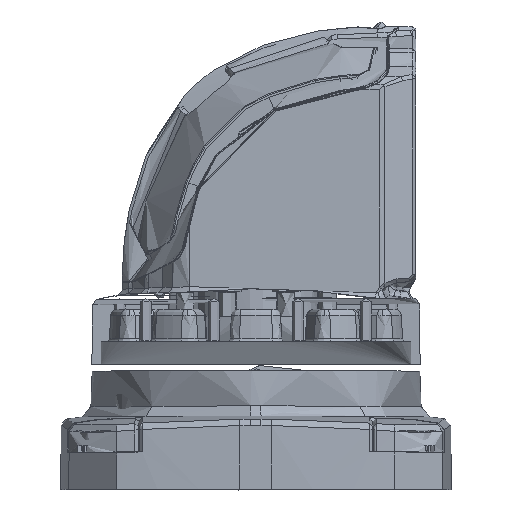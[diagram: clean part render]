
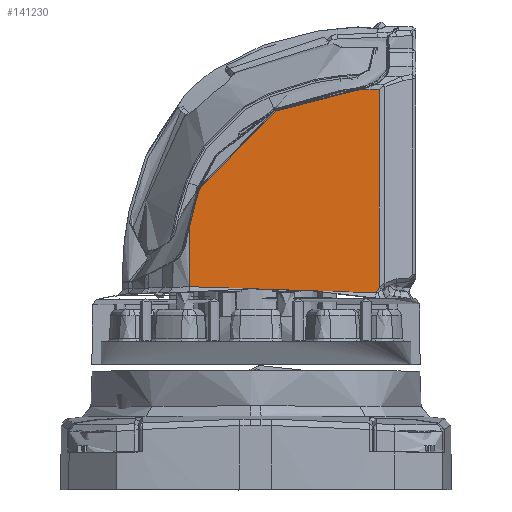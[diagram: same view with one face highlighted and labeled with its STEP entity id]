
A CAD part, top view. The second image highlights one B-rep face of the part: STEP entity #141230.
In plain terms, the highlighted planar face has unit normal (0, 0.009, 1) as drawn and (-0.009, 0, -1) by its records, which use the part's own axes.
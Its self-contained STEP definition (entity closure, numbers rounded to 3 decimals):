
#2459 = CARTESIAN_POINT ( 'NONE',  ( 123.346, -120.679, -51.222 ) ) ;
#3054 = ORIENTED_EDGE ( 'NONE', *, *, #195220, .F. ) ;
#4301 = CARTESIAN_POINT ( 'NONE',  ( 158.067, -94.267, -51.525 ) ) ;
#4817 = CARTESIAN_POINT ( 'NONE',  ( 177.502, -152.772, -51.694 ) ) ;
#7293 = CARTESIAN_POINT ( 'NONE',  ( 116.681, -147.272, -51.164 ) ) ;
#11046 = CARTESIAN_POINT ( 'NONE',  ( 179.234, -151.762, -51.71 ) ) ;
#18062 = ORIENTED_EDGE ( 'NONE', *, *, #227796, .F. ) ;
#18895 = EDGE_CURVE ( 'NONE', #193272, #121677, #91196, .T. ) ;
#20857 = CARTESIAN_POINT ( 'NONE',  ( 148.407, -97.092, -51.44 ) ) ;
#21921 = CARTESIAN_POINT ( 'NONE',  ( 148.407, -97.092, -51.44 ) ) ;
#26287 = CARTESIAN_POINT ( 'NONE',  ( 177.502, -152.772, -51.694 ) ) ;
#28095 = VERTEX_POINT ( 'NONE', #237103 ) ;
#29207 = CARTESIAN_POINT ( 'NONE',  ( 116.884, -146.453, -51.165 ) ) ;
#29420 = CARTESIAN_POINT ( 'NONE',  ( 181.935, -120.373, -51.733 ) ) ;
#31206 = CARTESIAN_POINT ( 'NONE',  ( 136.651, -102.935, -51.338 ) ) ;
#37729 = ORIENTED_EDGE ( 'NONE', *, *, #253411, .F. ) ;
#43640 = CARTESIAN_POINT ( 'NONE',  ( 146.758, -97.726, -51.426 ) ) ;
#44693 = FACE_OUTER_BOUND ( 'NONE', #84676, .T. ) ;
#45426 = CARTESIAN_POINT ( 'NONE',  ( 147.305, -97.508, -51.431 ) ) ;
#45824 = CARTESIAN_POINT ( 'NONE',  ( 116.681, -147.272, -51.164 ) ) ;
#46358 = DIRECTION ( 'NONE',  ( 1., 0., -0.009 ) ) ;
#46810 = VERTEX_POINT ( 'NONE', #64617 ) ;
#50337 = DIRECTION ( 'NONE',  ( -0.009, 0., -1. ) ) ;
#51554 = EDGE_CURVE ( 'NONE', #130534, #155772, #236818, .T. ) ;
#52158 = CARTESIAN_POINT ( 'NONE',  ( 128.631, -110.859, -51.268 ) ) ;
#56429 = EDGE_CURVE ( 'NONE', #165118, #28095, #68946, .T. ) ;
#61129 = B_SPLINE_CURVE_WITH_KNOTS ( 'NONE', 3,
 ( #224419, #266358, #253562, #128610, #251765, #21921 ),
 .UNSPECIFIED., .F., .F.,
 ( 4, 2, 4 ),
 ( 0., 0.5, 1. ),
 .UNSPECIFIED. ) ;
#62897 = CARTESIAN_POINT ( 'NONE',  ( 177.315, -94.267, -51.693 ) ) ;
#63331 = LINE ( 'NONE', #62897, #69843 ) ;
#64617 = CARTESIAN_POINT ( 'NONE',  ( 148.407, -97.092, -51.44 ) ) ;
#68426 = CARTESIAN_POINT ( 'NONE',  ( 117.123, -144.779, -51.168 ) ) ;
#68946 = LINE ( 'NONE', #45824, #117909 ) ;
#69843 = VECTOR ( 'NONE', #190638, 1000. ) ;
#73159 = B_SPLINE_CURVE_WITH_KNOTS ( 'NONE', 3,
 ( #68426, #191701, #29207, #7293 ),
 .UNSPECIFIED., .F., .F.,
 ( 4, 4 ),
 ( 0., 1. ),
 .UNSPECIFIED. ) ;
#74565 = ORIENTED_EDGE ( 'NONE', *, *, #175607, .F. ) ;
#84676 = EDGE_LOOP ( 'NONE', ( #219170, #193427, #3054, #185030, #37729, #198572, #233194, #74565, #18062, #220912 ) ) ;
#90588 = CARTESIAN_POINT ( 'NONE',  ( 179.234, -151.762, -51.71 ) ) ;
#90936 = CARTESIAN_POINT ( 'NONE',  ( 175.577, -113.439, -51.678 ) ) ;
#91196 = B_SPLINE_CURVE_WITH_KNOTS ( 'NONE', 3,
 ( #238262, #135205, #31206, #52158, #218193, #239120 ),
 .UNSPECIFIED., .F., .F.,
 ( 4, 2, 4 ),
 ( 0., 0.505, 1. ),
 .UNSPECIFIED. ) ;
#94962 = B_SPLINE_CURVE_WITH_KNOTS ( 'NONE', 3,
 ( #20857, #104779, #45426, #43640 ),
 .UNSPECIFIED., .F., .F.,
 ( 4, 4 ),
 ( 0., 1. ),
 .UNSPECIFIED. ) ;
#104779 = CARTESIAN_POINT ( 'NONE',  ( 147.855, -97.297, -51.436 ) ) ;
#105241 = EDGE_CURVE ( 'NONE', #121677, #237592, #252478, .T. ) ;
#114832 = CARTESIAN_POINT ( 'NONE',  ( 177.315, -94.267, -51.693 ) ) ;
#117909 = VECTOR ( 'NONE', #191847, 1000. ) ;
#119052 = CARTESIAN_POINT ( 'NONE',  ( 123.346, -120.679, -51.222 ) ) ;
#121677 = VERTEX_POINT ( 'NONE', #2459 ) ;
#128610 = CARTESIAN_POINT ( 'NONE',  ( 151.571, -95.983, -51.468 ) ) ;
#129391 = CARTESIAN_POINT ( 'NONE',  ( 116.681, -152.772, -51.164 ) ) ;
#130534 = VERTEX_POINT ( 'NONE', #114832 ) ;
#133472 = VERTEX_POINT ( 'NONE', #4301 ) ;
#135205 = CARTESIAN_POINT ( 'NONE',  ( 141.468, -99.803, -51.38 ) ) ;
#136199 = B_SPLINE_CURVE_WITH_KNOTS ( 'NONE', 3,
 ( #90588, #256577, #237411, #4817 ),
 .UNSPECIFIED., .F., .F.,
 ( 4, 4 ),
 ( 0., 1. ),
 .UNSPECIFIED. ) ;
#137381 = CARTESIAN_POINT ( 'NONE',  ( 117.123, -144.779, -51.168 ) ) ;
#140104 = CARTESIAN_POINT ( 'NONE',  ( 118.05, -136.493, -51.176 ) ) ;
#141230 = ADVANCED_FACE ( 'NONE', ( #44693 ), #151696, .T. ) ;
#148059 = LINE ( 'NONE', #129391, #151235 ) ;
#151235 = VECTOR ( 'NONE', #46358, 1000. ) ;
#151696 = PLANE ( 'NONE',  #215749 ) ;
#153505 = DIRECTION ( 'NONE',  ( 0., -1., 0. ) ) ;
#155772 = VERTEX_POINT ( 'NONE', #11046 ) ;
#158144 = CARTESIAN_POINT ( 'NONE',  ( 146.758, -97.726, -51.426 ) ) ;
#165118 = VERTEX_POINT ( 'NONE', #240937 ) ;
#175607 = EDGE_CURVE ( 'NONE', #46810, #193272, #94962, .T. ) ;
#185030 = ORIENTED_EDGE ( 'NONE', *, *, #56429, .F. ) ;
#189829 = CARTESIAN_POINT ( 'NONE',  ( 179.234, -151.762, -51.71 ) ) ;
#190638 = DIRECTION ( 'NONE',  ( -1., 0., 0.009 ) ) ;
#191701 = CARTESIAN_POINT ( 'NONE',  ( 117.029, -145.617, -51.167 ) ) ;
#191847 = DIRECTION ( 'NONE',  ( 0., -1., 0. ) ) ;
#193272 = VERTEX_POINT ( 'NONE', #158144 ) ;
#193427 = ORIENTED_EDGE ( 'NONE', *, *, #241864, .T. ) ;
#195220 = EDGE_CURVE ( 'NONE', #28095, #195427, #148059, .T. ) ;
#195427 = VERTEX_POINT ( 'NONE', #26287 ) ;
#198572 = ORIENTED_EDGE ( 'NONE', *, *, #105241, .F. ) ;
#215749 = AXIS2_PLACEMENT_3D ( 'NONE', #29420, #50337, #153505 ) ;
#218193 = CARTESIAN_POINT ( 'NONE',  ( 125.485, -115.533, -51.24 ) ) ;
#219170 = ORIENTED_EDGE ( 'NONE', *, *, #51554, .T. ) ;
#220912 = ORIENTED_EDGE ( 'NONE', *, *, #227333, .F. ) ;
#224419 = CARTESIAN_POINT ( 'NONE',  ( 158.067, -94.267, -51.525 ) ) ;
#225432 = CARTESIAN_POINT ( 'NONE',  ( 176.222, -132.751, -51.683 ) ) ;
#227333 = EDGE_CURVE ( 'NONE', #130534, #133472, #63331, .T. ) ;
#227796 = EDGE_CURVE ( 'NONE', #133472, #46810, #61129, .T. ) ;
#233194 = ORIENTED_EDGE ( 'NONE', *, *, #18895, .F. ) ;
#236818 = B_SPLINE_CURVE_WITH_KNOTS ( 'NONE', 3,
 ( #240387, #90936, #225432, #189829 ),
 .UNSPECIFIED., .F., .F.,
 ( 4, 4 ),
 ( 0., 1. ),
 .UNSPECIFIED. ) ;
#237103 = CARTESIAN_POINT ( 'NONE',  ( 116.681, -152.772, -51.164 ) ) ;
#237411 = CARTESIAN_POINT ( 'NONE',  ( 178.028, -152.356, -51.699 ) ) ;
#237592 = VERTEX_POINT ( 'NONE', #137381 ) ;
#238262 = CARTESIAN_POINT ( 'NONE',  ( 146.758, -97.726, -51.426 ) ) ;
#239120 = CARTESIAN_POINT ( 'NONE',  ( 123.346, -120.679, -51.222 ) ) ;
#240387 = CARTESIAN_POINT ( 'NONE',  ( 177.315, -94.267, -51.693 ) ) ;
#240937 = CARTESIAN_POINT ( 'NONE',  ( 116.681, -147.272, -51.164 ) ) ;
#241318 = CARTESIAN_POINT ( 'NONE',  ( 117.123, -144.779, -51.168 ) ) ;
#241864 = EDGE_CURVE ( 'NONE', #155772, #195427, #136199, .T. ) ;
#251765 = CARTESIAN_POINT ( 'NONE',  ( 149.975, -96.506, -51.454 ) ) ;
#252478 = B_SPLINE_CURVE_WITH_KNOTS ( 'NONE', 3,
 ( #119052, #263225, #140104, #241318 ),
 .UNSPECIFIED., .F., .F.,
 ( 4, 4 ),
 ( 0., 1. ),
 .UNSPECIFIED. ) ;
#253411 = EDGE_CURVE ( 'NONE', #237592, #165118, #73159, .T. ) ;
#253562 = CARTESIAN_POINT ( 'NONE',  ( 154.798, -95.045, -51.496 ) ) ;
#256577 = CARTESIAN_POINT ( 'NONE',  ( 178.613, -152.015, -51.704 ) ) ;
#263225 = CARTESIAN_POINT ( 'NONE',  ( 120.145, -128.379, -51.194 ) ) ;
#266358 = CARTESIAN_POINT ( 'NONE',  ( 156.428, -94.63, -51.511 ) ) ;
